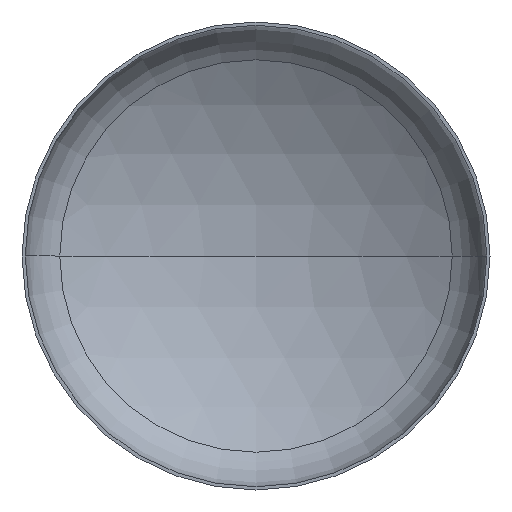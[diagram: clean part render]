
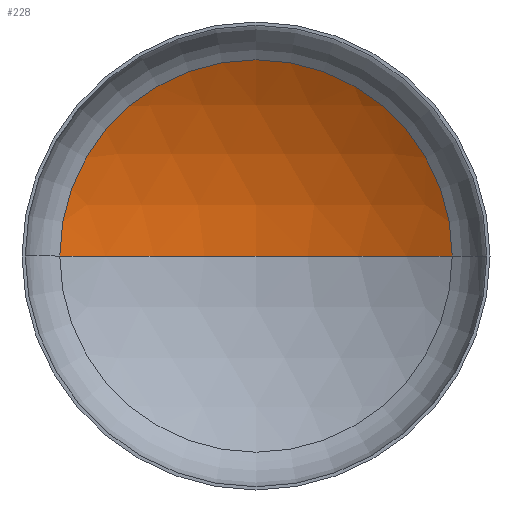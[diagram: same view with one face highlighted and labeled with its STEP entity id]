
A CAD part, front view. The second image highlights one B-rep face of the part: STEP entity #228.
In plain terms, the highlighted spherical face has radius 800 mm.
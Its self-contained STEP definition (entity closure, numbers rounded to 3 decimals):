
#5 = AXIS2_PLACEMENT_3D ( 'NONE', #77, #90, #112 ) ;
#6 = AXIS2_PLACEMENT_3D ( 'NONE', #35, #342, #244 ) ;
#9 = ORIENTED_EDGE ( 'NONE', *, *, #360, .F. ) ;
#22 = EDGE_LOOP ( 'NONE', ( #9, #172, #123 ) ) ;
#29 = AXIS2_PLACEMENT_3D ( 'NONE', #211, #201, #189 ) ;
#31 = AXIS2_PLACEMENT_3D ( 'NONE', #387, #250, #338 ) ;
#35 = CARTESIAN_POINT ( 'NONE',  ( 0., -524.346, 0. ) ) ;
#71 = VERTEX_POINT ( 'NONE', #345 ) ;
#74 = FACE_OUTER_BOUND ( 'NONE', #22, .T. ) ;
#77 = CARTESIAN_POINT ( 'NONE',  ( 0., -524.346, 0. ) ) ;
#90 = DIRECTION ( 'NONE',  ( 0., 0., 1. ) ) ;
#112 = DIRECTION ( 'NONE',  ( 1., 0., 0. ) ) ;
#123 = ORIENTED_EDGE ( 'NONE', *, *, #373, .T. ) ;
#128 = CIRCLE ( 'NONE', #6, 800. ) ;
#140 = VERTEX_POINT ( 'NONE', #292 ) ;
#172 = ORIENTED_EDGE ( 'NONE', *, *, #358, .T. ) ;
#189 = DIRECTION ( 'NONE',  ( -1., 0., 0. ) ) ;
#199 = CARTESIAN_POINT ( 'NONE',  ( -419.225, 157.013, 0. ) ) ;
#201 = DIRECTION ( 'NONE',  ( 0., 0., -1. ) ) ;
#211 = CARTESIAN_POINT ( 'NONE',  ( 0., -524.346, 0. ) ) ;
#228 = ADVANCED_FACE ( 'NONE', ( #74 ), #372, .F. ) ;
#244 = DIRECTION ( 'NONE',  ( -1., 0., 0. ) ) ;
#246 = VERTEX_POINT ( 'NONE', #199 ) ;
#250 = DIRECTION ( 'NONE',  ( 0., -1., 0. ) ) ;
#292 = CARTESIAN_POINT ( 'NONE',  ( 419.225, 157.013, 0. ) ) ;
#324 = CIRCLE ( 'NONE', #31, 419.225 ) ;
#332 = CIRCLE ( 'NONE', #5, 800. ) ;
#338 = DIRECTION ( 'NONE',  ( 1., 0., 0. ) ) ;
#342 = DIRECTION ( 'NONE',  ( 0., 0., -1. ) ) ;
#345 = CARTESIAN_POINT ( 'NONE',  ( 0., 275.654, 0. ) ) ;
#358 = EDGE_CURVE ( 'NONE', #71, #140, #128, .T. ) ;
#360 = EDGE_CURVE ( 'NONE', #71, #246, #332, .T. ) ;
#372 = SPHERICAL_SURFACE ( 'NONE', #29, 800. ) ;
#373 = EDGE_CURVE ( 'NONE', #140, #246, #324, .T. ) ;
#387 = CARTESIAN_POINT ( 'NONE',  ( 0., 157.013, 0. ) ) ;
